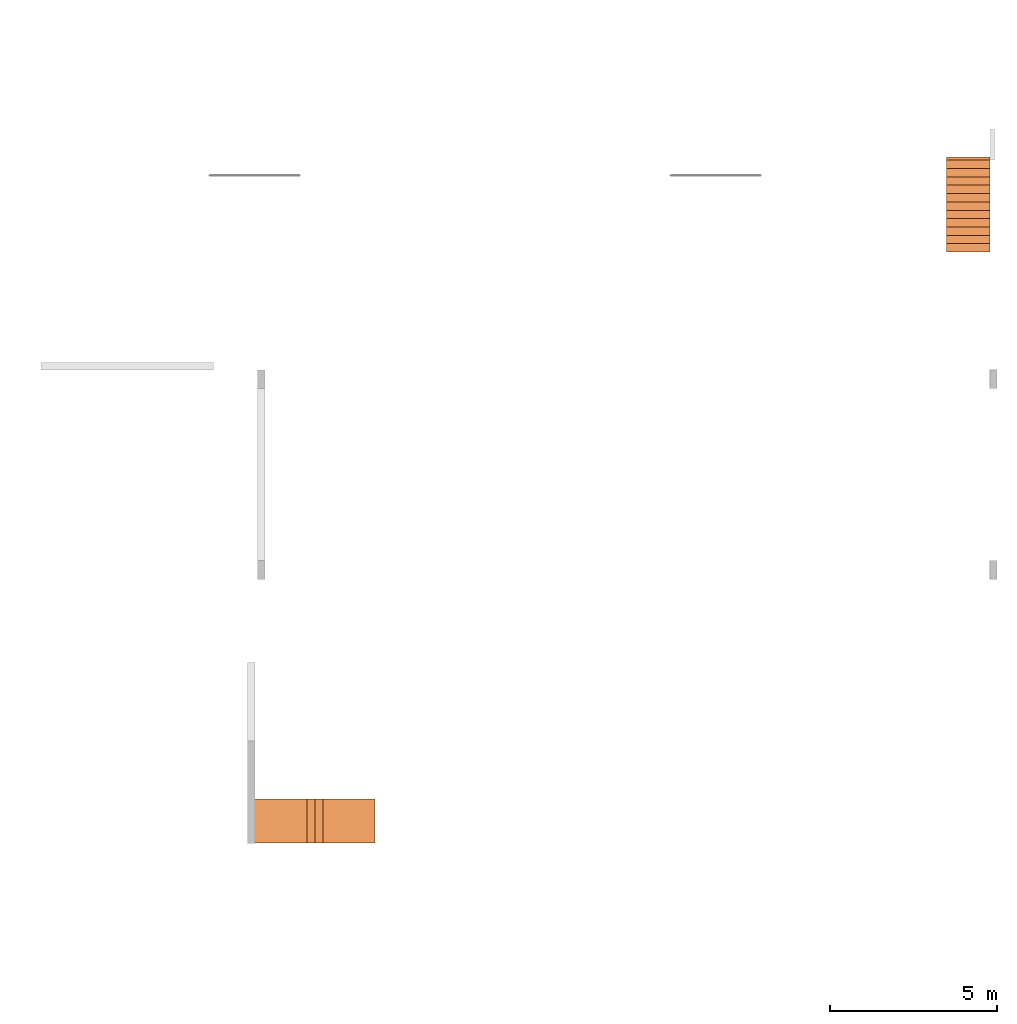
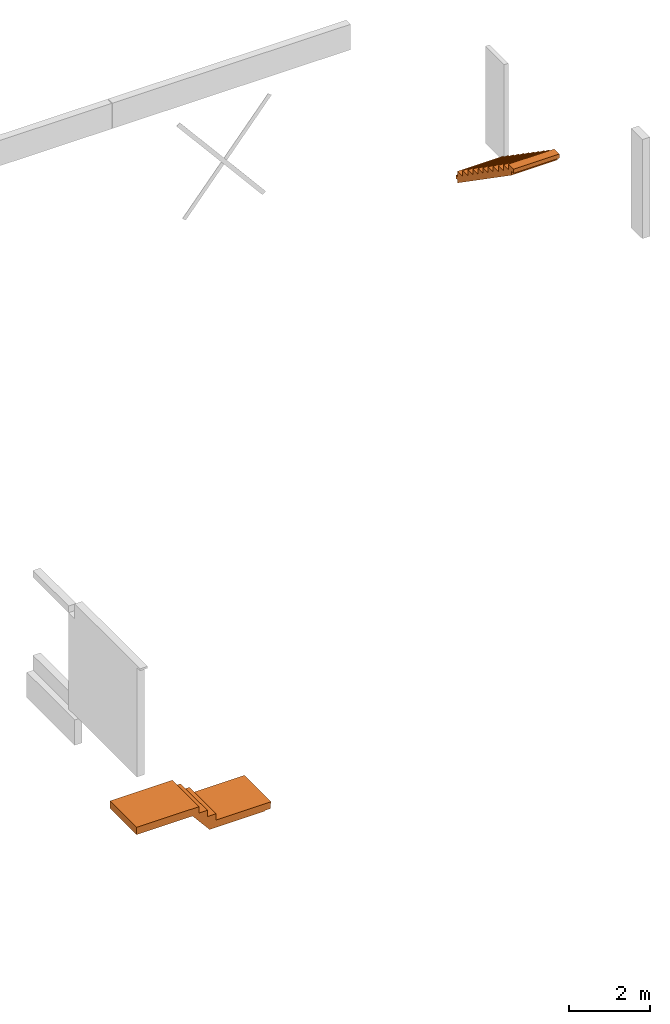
# One storey, part 2 of 2: 2 proxies.
"""IFC2X3 building model written with IfcOpenShell, lengths in millimetres."""

from ifc_helpers import new_model, entity, si_unit, converted_unit, derived_unit, direction, frame, origin, place, context, subcontext, project, spatial, polyline, outline, extrude, source, transform, mapped, material, type_object, type_shapes, element, save


model = new_model("IFC2X3")

# Units and contexts
model_context = context("Model", 3, precision=0.01, world=origin(), true_north=direction((6.123031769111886e-17, 1.0)))
body_context = subcontext(model_context, "Body", "Model", "MODEL_VIEW")
ifc_project = project(units=[si_unit("LENGTHUNIT", "METRE", prefix="MILLI"), si_unit("AREAUNIT", "SQUARE_METRE", prefix="MILLI"), si_unit("VOLUMEUNIT", "CUBIC_METRE"), converted_unit("PLANEANGLEUNIT", "DEGREE", entity("IfcPlaneAngleMeasure", 0.017453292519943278), si_unit("PLANEANGLEUNIT", "RADIAN"), dimensions=[0, 0, 0, 0, 0, 0, 0]), si_unit("MASSUNIT", "GRAM", prefix="KILO"), derived_unit("MASSDENSITYUNIT", [(si_unit("MASSUNIT", "GRAM", prefix="KILO"), 1), (si_unit("LENGTHUNIT", "METRE"), -3)]), derived_unit("IONCONCENTRATIONUNIT", [(si_unit("MASSUNIT", "GRAM", prefix="KILO"), 1), (si_unit("LENGTHUNIT", "METRE"), -3)]), derived_unit("MOMENTOFINERTIAUNIT", [(si_unit("LENGTHUNIT", "METRE"), 4)]), si_unit("TIMEUNIT", "SECOND"), si_unit("FREQUENCYUNIT", "HERTZ"), si_unit("THERMODYNAMICTEMPERATUREUNIT", "DEGREE_CELSIUS"), derived_unit("THERMALTRANSMITTANCEUNIT", [(si_unit("MASSUNIT", "GRAM", prefix="KILO"), 1), (si_unit("THERMODYNAMICTEMPERATUREUNIT", "KELVIN"), -1), (si_unit("TIMEUNIT", "SECOND"), -3)]), derived_unit("THERMALCONDUCTANCEUNIT", [(si_unit("MASSUNIT", "GRAM", prefix="KILO"), 1), (si_unit("THERMODYNAMICTEMPERATUREUNIT", "KELVIN"), -1), (si_unit("TIMEUNIT", "SECOND"), -3), (si_unit("LENGTHUNIT", "METRE"), 1)]), derived_unit("VOLUMETRICFLOWRATEUNIT", [(si_unit("LENGTHUNIT", "METRE", prefix="DECI"), 3), (si_unit("TIMEUNIT", "SECOND"), -1)]), derived_unit("MASSFLOWRATEUNIT", [(si_unit("MASSUNIT", "GRAM", prefix="KILO"), 1), (si_unit("TIMEUNIT", "SECOND"), -1)]), derived_unit("ROTATIONALFREQUENCYUNIT", [(si_unit("TIMEUNIT", "SECOND"), -1)]), si_unit("ELECTRICCURRENTUNIT", "AMPERE"), si_unit("ELECTRICVOLTAGEUNIT", "VOLT"), si_unit("POWERUNIT", "WATT"), si_unit("FORCEUNIT", "NEWTON", prefix="KILO"), si_unit("ILLUMINANCEUNIT", "LUX"), si_unit("LUMINOUSFLUXUNIT", "LUMEN"), si_unit("LUMINOUSINTENSITYUNIT", "CANDELA"), si_unit("ENERGYUNIT", "JOULE"), derived_unit("USERDEFINED", [(si_unit("MASSUNIT", "GRAM", prefix="KILO"), -1), (si_unit("LENGTHUNIT", "METRE"), -2), (si_unit("TIMEUNIT", "SECOND"), 3), (si_unit("LUMINOUSFLUXUNIT", "LUMEN"), 1)]), derived_unit("USERDEFINED", [(si_unit("MASSUNIT", "GRAM", prefix="KILO"), 1), (si_unit("TIMEUNIT", "SECOND"), -3), (si_unit("LENGTHUNIT", "METRE"), 3), (si_unit("ELECTRICCURRENTUNIT", "AMPERE"), -2)]), derived_unit("SOUNDPOWERUNIT", [(si_unit("MASSUNIT", "GRAM", prefix="KILO"), 1), (si_unit("TIMEUNIT", "SECOND"), -3), (si_unit("LENGTHUNIT", "METRE"), 2)]), derived_unit("SOUNDPRESSUREUNIT", [(si_unit("MASSUNIT", "GRAM", prefix="KILO"), 1), (si_unit("LENGTHUNIT", "METRE"), -1), (si_unit("TIMEUNIT", "SECOND"), -2)]), derived_unit("LINEARVELOCITYUNIT", [(si_unit("LENGTHUNIT", "METRE"), 1), (si_unit("TIMEUNIT", "SECOND"), -1)]), si_unit("PRESSUREUNIT", "PASCAL"), derived_unit("USERDEFINED", [(si_unit("MASSUNIT", "GRAM", prefix="KILO"), 1), (si_unit("LENGTHUNIT", "METRE"), -2), (si_unit("TIMEUNIT", "SECOND"), -2)]), derived_unit("LINEARFORCEUNIT", [(si_unit("MASSUNIT", "GRAM", prefix="KILO"), 1), (si_unit("TIMEUNIT", "SECOND"), -2)]), derived_unit("PLANARFORCEUNIT", [(si_unit("MASSUNIT", "GRAM", prefix="KILO"), 1), (si_unit("LENGTHUNIT", "METRE"), -1), (si_unit("TIMEUNIT", "SECOND"), -2)]), derived_unit("SPECIFICHEATCAPACITYUNIT", [(si_unit("THERMODYNAMICTEMPERATUREUNIT", "KELVIN"), -1), (si_unit("LENGTHUNIT", "METRE"), 2), (si_unit("TIMEUNIT", "SECOND"), -2)]), derived_unit("HEATFLUXDENSITYUNIT", [(si_unit("MASSUNIT", "GRAM", prefix="KILO"), 1), (si_unit("TIMEUNIT", "SECOND"), -3)]), derived_unit("HEATINGVALUEUNIT", [(si_unit("LENGTHUNIT", "METRE"), 2), (si_unit("TIMEUNIT", "SECOND"), -2)]), derived_unit("VAPORPERMEABILITYUNIT", [(si_unit("LENGTHUNIT", "METRE"), -1), (si_unit("TIMEUNIT", "SECOND"), 1)]), derived_unit("DYNAMICVISCOSITYUNIT", [(si_unit("MASSUNIT", "GRAM", prefix="KILO"), 1), (si_unit("TIMEUNIT", "SECOND"), -1), (si_unit("LENGTHUNIT", "METRE"), -1)]), derived_unit("THERMALEXPANSIONCOEFFICIENTUNIT", [(si_unit("THERMODYNAMICTEMPERATUREUNIT", "KELVIN"), -1)]), derived_unit("MODULUSOFELASTICITYUNIT", [(si_unit("MASSUNIT", "GRAM", prefix="KILO"), 1), (si_unit("LENGTHUNIT", "METRE"), -1), (si_unit("TIMEUNIT", "SECOND"), -2)]), derived_unit("ISOTHERMALMOISTURECAPACITYUNIT", [(si_unit("MASSUNIT", "GRAM", prefix="KILO"), -1), (si_unit("LENGTHUNIT", "METRE"), 3)]), derived_unit("MOISTUREDIFFUSIVITYUNIT", [(si_unit("TIMEUNIT", "SECOND"), -1), (si_unit("LENGTHUNIT", "METRE"), 2)]), derived_unit("MASSPERLENGTHUNIT", [(si_unit("MASSUNIT", "GRAM", prefix="KILO"), 1), (si_unit("LENGTHUNIT", "METRE"), -1)]), derived_unit("THERMALRESISTANCEUNIT", [(si_unit("MASSUNIT", "GRAM", prefix="KILO"), -1), (si_unit("TIMEUNIT", "SECOND"), 3), (si_unit("THERMODYNAMICTEMPERATUREUNIT", "KELVIN"), 1)]), derived_unit("ACCELERATIONUNIT", [(si_unit("LENGTHUNIT", "METRE"), 1), (si_unit("TIMEUNIT", "SECOND"), -2)]), derived_unit("ANGULARVELOCITYUNIT", [(si_unit("TIMEUNIT", "SECOND"), -1), (si_unit("PLANEANGLEUNIT", "RADIAN"), 1)]), derived_unit("LINEARSTIFFNESSUNIT", [(si_unit("MASSUNIT", "GRAM", prefix="KILO"), 1), (si_unit("TIMEUNIT", "SECOND"), -2)]), derived_unit("WARPINGCONSTANTUNIT", [(si_unit("LENGTHUNIT", "METRE"), 6)]), derived_unit("LINEARMOMENTUNIT", [(si_unit("MASSUNIT", "GRAM", prefix="KILO"), 1), (si_unit("LENGTHUNIT", "METRE"), 1), (si_unit("TIMEUNIT", "SECOND"), -2)]), derived_unit("TORQUEUNIT", [(si_unit("MASSUNIT", "GRAM", prefix="KILO"), 1), (si_unit("LENGTHUNIT", "METRE"), 2), (si_unit("TIMEUNIT", "SECOND"), -2)])], contexts=[model_context])

# Site, building, storey
site_placement = place(None, origin())
site = spatial("IfcSite", under=ifc_project, at=site_placement, Name="Default", CompositionType="ELEMENT")
building_placement = place(site_placement, origin())
building = spatial("IfcBuilding", under=site, at=building_placement, CompositionType="ELEMENT")
storey_placement = place(building_placement, frame((0.0, 0.0, 5000.0)))
storey = spatial("IfcBuildingStorey", under=building, at=storey_placement, Name="KDV V2 werkbalken", CompositionType="ELEMENT", Elevation=5000.000000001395)

# Proxies
ifc_material = material(Name="Beton, prefab C35/45")
building_element_proxy_type_1 = type_object("IfcBuildingElementProxyType", Name="Generic Models 2:Generic Models 1", PredefinedType="NOTDEFINED", material=ifc_material)
shared_shape_1 = source(origin(), body_context, "Body", "SweptSolid", [
    extrude(outline(polyline([(-137.258843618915, 128.71106329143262), (1425.6818846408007, 128.71106329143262), (1425.6818846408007, 162.46106329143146), (1410.6818846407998, 177.46106329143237), (1410.6818846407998, 327.7725569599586), (1264.1203909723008, 327.7725569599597), (1243.1818846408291, 348.7110632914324), (-320.4158512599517, 348.7110632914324), (-800.4411334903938, -221.28893670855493), (-2392.006258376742, -221.2889367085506), (-2392.006258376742, -441.28893670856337), (-617.2841258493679, -441.28893670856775), (-617.2841258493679, -251.2889367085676), (-383.03718686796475, -251.2889367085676), (-383.03718686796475, -61.28893670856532), (-137.25884361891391, -61.2889367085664), (-137.258843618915, 128.71106329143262)])), frame((9003.007039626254, 17669.605013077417, 5448.711063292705), z_axis=(0.0, 1.0, 0.0), x_axis=(1.0, 0.0, 0.0)), (0.0, 0.0, 1.0), 1311.2000000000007),
])
type_shapes(building_element_proxy_type_1, [shared_shape_1])
proxy_1_placement = place(storey_placement, frame((0.0, 0.0, -5000.0)))
element("IfcBuildingElementProxy", 1, at=proxy_1_placement, inside=storey, type_object=building_element_proxy_type_1, material=ifc_material, Name="Generic Models 2:Generic Models 1", ObjectType="Generic Models 2:Generic Models 1", context=body_context, shape_type="MappedRepresentation", body=[
    mapped(shared_shape_1, transform((0.0, 0.0, 0.0), scale=1.0)),
])
building_element_proxy_type_2 = type_object("IfcBuildingElementProxyType", Name="Generic Models 8:Generic Models 4", PredefinedType="NOTDEFINED", material=ifc_material)
shared_shape_2 = source(origin(), body_context, "Body", "SweptSolid", [
    extrude(outline(polyline([(-921.1080000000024, -1270.6666666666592), (-748.4080000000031, -1270.6666666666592), (-748.4080000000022, -1020.6666666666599), (-575.7080000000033, -1020.6666666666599), (-575.7080000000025, -770.6666666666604), (-403.0080000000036, -770.6666666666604), (-403.00800000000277, -520.666666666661), (-230.3080000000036, -520.666666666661), (-230.30800000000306, -270.66666666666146), (-57.608000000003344, -270.66666666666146), (-57.608000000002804, -20.666666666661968), (115.09199999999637, -20.666666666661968), (115.09199999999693, 229.33333333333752), (287.79199999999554, 229.33333333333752), (287.7919999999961, 479.333333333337), (460.4919999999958, 479.333333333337), (460.4919999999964, 729.3333333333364), (633.191999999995, 729.3333333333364), (633.1919999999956, 979.333333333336), (805.8919999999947, 979.333333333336), (805.8919999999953, 1229.3333333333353), (978.5919999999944, 1229.3333333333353), (978.591999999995, 1479.3333333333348), (853.5919999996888, 1479.3333333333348), (853.5919999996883, 1379.3333333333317), (737.2319999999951, 1379.3333333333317), (-1100.8080000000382, -1270.6666666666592), (-1016.7079999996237, -1270.6666666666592), (-1016.707999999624, -1360.6666666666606), (-921.1080000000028, -1360.6666666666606), (-921.1080000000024, -1270.6666666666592)])), frame((27524.97952010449, 36833.90653839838, 2821.4080000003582), z_axis=(1.0, 0.0, 0.0), x_axis=(0.0, 0.0, 1.0)), (0.0, 0.0, 1.0), 1299.999999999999),
])
type_shapes(building_element_proxy_type_2, [shared_shape_2])
proxy_2_placement = place(storey_placement, frame((0.0, 0.0, -1200.0)))
element("IfcBuildingElementProxy", 2, at=proxy_2_placement, inside=storey, type_object=building_element_proxy_type_2, material=ifc_material, Name="Generic Models 8:Generic Models 4", ObjectType="Generic Models 8:Generic Models 4", context=body_context, shape_type="MappedRepresentation", body=[
    mapped(shared_shape_2, transform((0.0, 0.0, 0.0), scale=1.0)),
])

save(model, "model.ifc")
